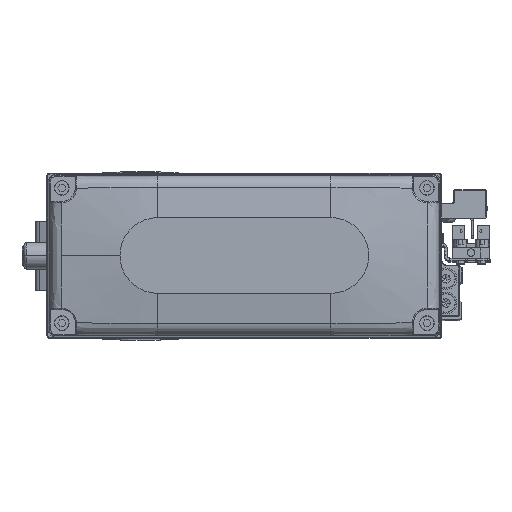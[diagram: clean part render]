
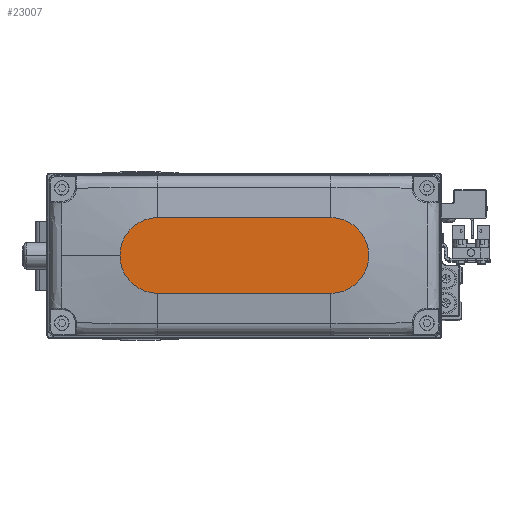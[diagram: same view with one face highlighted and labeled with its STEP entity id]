
A CAD part, top view. The second image highlights one B-rep face of the part: STEP entity #23007.
In plain terms, the highlighted planar face has unit normal (0, 0, 1).
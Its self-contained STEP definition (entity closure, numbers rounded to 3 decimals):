
#2348 = CARTESIAN_POINT ( 'NONE',  ( -32., 14., 35. ) ) ;
#2755 = EDGE_CURVE ( 'NONE', #42617, #22374, #9924, .T. ) ;
#4215 = CIRCLE ( 'NONE', #29221, 14. ) ;
#4672 = DIRECTION ( 'NONE',  ( 1., 0., 0. ) ) ;
#4846 = DIRECTION ( 'NONE',  ( 0., 0., 1. ) ) ;
#5102 = DIRECTION ( 'NONE',  ( 1., 0., 0. ) ) ;
#6427 = AXIS2_PLACEMENT_3D ( 'NONE', #22099, #35727, #5102 ) ;
#6659 = ORIENTED_EDGE ( 'NONE', *, *, #20597, .T. ) ;
#6755 = ORIENTED_EDGE ( 'NONE', *, *, #13723, .T. ) ;
#8425 = PLANE ( 'NONE',  #6427 ) ;
#8438 = CARTESIAN_POINT ( 'NONE',  ( 32., 14., 35. ) ) ;
#9683 = DIRECTION ( 'NONE',  ( 1., 0., 0. ) ) ;
#9924 = LINE ( 'NONE', #23597, #23654 ) ;
#10240 = DIRECTION ( 'NONE',  ( 1., 0., 0. ) ) ;
#10900 = ORIENTED_EDGE ( 'NONE', *, *, #21693, .T. ) ;
#10906 = CARTESIAN_POINT ( 'NONE',  ( 46., 0., 35. ) ) ;
#10934 = EDGE_CURVE ( 'NONE', #42133, #20962, #26703, .T. ) ;
#11022 = ORIENTED_EDGE ( 'NONE', *, *, #2755, .T. ) ;
#13723 = EDGE_CURVE ( 'NONE', #22374, #42133, #17806, .T. ) ;
#17806 = CIRCLE ( 'NONE', #42798, 14. ) ;
#18497 = DIRECTION ( 'NONE',  ( 1., 0., 0. ) ) ;
#20597 = EDGE_CURVE ( 'NONE', #21813, #42617, #4215, .T. ) ;
#20962 = VERTEX_POINT ( 'NONE', #24519 ) ;
#21337 = CIRCLE ( 'NONE', #27044, 14. ) ;
#21693 = EDGE_CURVE ( 'NONE', #20962, #21813, #21337, .T. ) ;
#21694 = CARTESIAN_POINT ( 'NONE',  ( -32., 0., 35. ) ) ;
#21813 = VERTEX_POINT ( 'NONE', #10906 ) ;
#22099 = CARTESIAN_POINT ( 'NONE',  ( 0., 0., 35. ) ) ;
#22374 = VERTEX_POINT ( 'NONE', #2348 ) ;
#23007 = ADVANCED_FACE ( 'NONE', ( #39073 ), #8425, .T. ) ;
#23597 = CARTESIAN_POINT ( 'NONE',  ( -32., 14., 35. ) ) ;
#23654 = VECTOR ( 'NONE', #37218, 1000. ) ;
#24519 = CARTESIAN_POINT ( 'NONE',  ( 32., -14., 35. ) ) ;
#25470 = VECTOR ( 'NONE', #9683, 1000. ) ;
#26703 = LINE ( 'NONE', #40347, #25470 ) ;
#27044 = AXIS2_PLACEMENT_3D ( 'NONE', #27263, #40902, #10240 ) ;
#27263 = CARTESIAN_POINT ( 'NONE',  ( 32., 0., 35. ) ) ;
#29221 = AXIS2_PLACEMENT_3D ( 'NONE', #35482, #4846, #18497 ) ;
#35132 = CARTESIAN_POINT ( 'NONE',  ( -32., -14., 35. ) ) ;
#35315 = DIRECTION ( 'NONE',  ( 0., 0., 1. ) ) ;
#35482 = CARTESIAN_POINT ( 'NONE',  ( 32., 0., 35. ) ) ;
#35727 = DIRECTION ( 'NONE',  ( 0., 0., 1. ) ) ;
#37218 = DIRECTION ( 'NONE',  ( -1., 0., 0. ) ) ;
#37277 = ORIENTED_EDGE ( 'NONE', *, *, #10934, .T. ) ;
#38302 = EDGE_LOOP ( 'NONE', ( #11022, #6755, #37277, #10900, #6659 ) ) ;
#39073 = FACE_OUTER_BOUND ( 'NONE', #38302, .T. ) ;
#40347 = CARTESIAN_POINT ( 'NONE',  ( -32., -14., 35. ) ) ;
#40902 = DIRECTION ( 'NONE',  ( 0., 0., 1. ) ) ;
#42133 = VERTEX_POINT ( 'NONE', #35132 ) ;
#42617 = VERTEX_POINT ( 'NONE', #8438 ) ;
#42798 = AXIS2_PLACEMENT_3D ( 'NONE', #21694, #35315, #4672 ) ;
